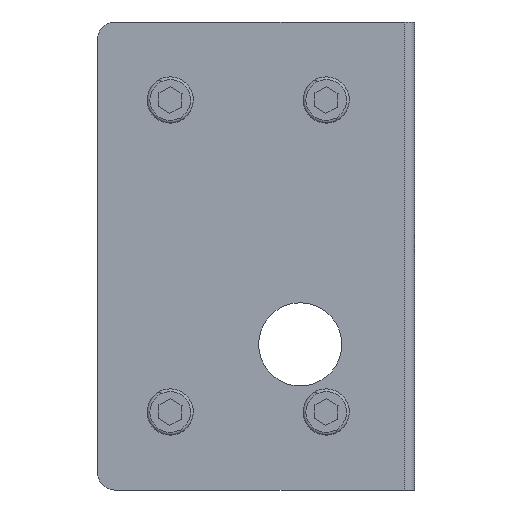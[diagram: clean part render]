
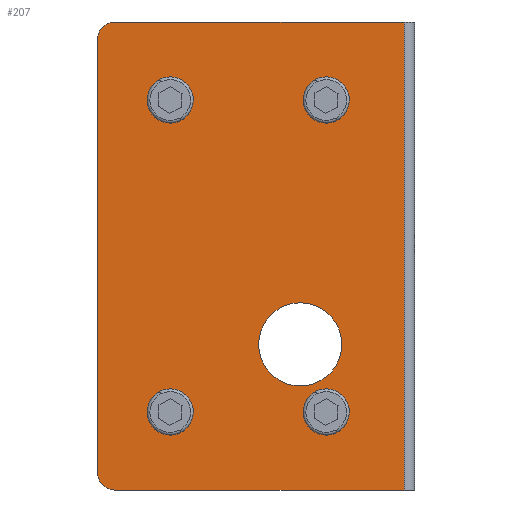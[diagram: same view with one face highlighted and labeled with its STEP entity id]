
A CAD part, left-side view. The second image highlights one B-rep face of the part: STEP entity #207.
In plain terms, the highlighted planar face has unit normal (-1, 0, 0).
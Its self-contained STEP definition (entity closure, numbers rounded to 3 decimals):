
#18 = VERTEX_POINT ( 'NONE', #1197 ) ;
#63 = DIRECTION ( 'NONE',  ( 0., 0., -1. ) ) ;
#76 = CARTESIAN_POINT ( 'NONE',  ( -46.5, -13.5, -25.5 ) ) ;
#91 = ORIENTED_EDGE ( 'NONE', *, *, #1425, .F. ) ;
#117 = DIRECTION ( 'NONE',  ( 0., -1., 0. ) ) ;
#186 = ORIENTED_EDGE ( 'NONE', *, *, #2290, .F. ) ;
#205 = AXIS2_PLACEMENT_3D ( 'NONE', #335, #304, #547 ) ;
#207 = ADVANCED_FACE ( 'NONE', ( #2452, #1125, #2305, #2536, #1193, #1199 ), #802, .F. ) ;
#217 = ORIENTED_EDGE ( 'NONE', *, *, #2109, .T. ) ;
#225 = EDGE_CURVE ( 'NONE', #18, #2015, #968, .T. ) ;
#233 = DIRECTION ( 'NONE',  ( 0., -1., 0. ) ) ;
#272 = AXIS2_PLACEMENT_3D ( 'NONE', #2910, #2214, #2705 ) ;
#275 = DIRECTION ( 'NONE',  ( -1., 0., 0. ) ) ;
#277 = CARTESIAN_POINT ( 'NONE',  ( -46.5, 45., 62.5 ) ) ;
#281 = VERTEX_POINT ( 'NONE', #2670 ) ;
#287 = CIRCLE ( 'NONE', #551, 4.25 ) ;
#304 = DIRECTION ( 'NONE',  ( -1., 0., 0. ) ) ;
#321 = VECTOR ( 'NONE', #63, 1000. ) ;
#325 = DIRECTION ( 'NONE',  ( -1., 0., 0. ) ) ;
#330 = CARTESIAN_POINT ( 'NONE',  ( -46.5, 40., -67.5 ) ) ;
#335 = CARTESIAN_POINT ( 'NONE',  ( -46.5, 24., 45. ) ) ;
#337 = DIRECTION ( 'NONE',  ( 1., 0., 0. ) ) ;
#339 = AXIS2_PLACEMENT_3D ( 'NONE', #2692, #2679, #2667 ) ;
#357 = DIRECTION ( 'NONE',  ( -1., 0., 0. ) ) ;
#365 = CIRCLE ( 'NONE', #2917, 5. ) ;
#384 = AXIS2_PLACEMENT_3D ( 'NONE', #76, #483, #1717 ) ;
#397 = CARTESIAN_POINT ( 'NONE',  ( -46.5, -13.5, -25.5 ) ) ;
#417 = CARTESIAN_POINT ( 'NONE',  ( -46.5, 45., 67.5 ) ) ;
#483 = DIRECTION ( 'NONE',  ( -1., 0., 0. ) ) ;
#488 = VERTEX_POINT ( 'NONE', #2334 ) ;
#496 = AXIS2_PLACEMENT_3D ( 'NONE', #1060, #831, #1069 ) ;
#537 = CARTESIAN_POINT ( 'NONE',  ( -46.5, 45., -67.5 ) ) ;
#541 = DIRECTION ( 'NONE',  ( 0., 0., 1. ) ) ;
#547 = DIRECTION ( 'NONE',  ( 0., 0., 1. ) ) ;
#551 = AXIS2_PLACEMENT_3D ( 'NONE', #2954, #2717, #1288 ) ;
#567 = DIRECTION ( 'NONE',  ( -1., 0., 0. ) ) ;
#612 = VECTOR ( 'NONE', #2557, 1000. ) ;
#688 = EDGE_CURVE ( 'NONE', #2905, #18, #1879, .T. ) ;
#712 = ORIENTED_EDGE ( 'NONE', *, *, #1736, .T. ) ;
#769 = ORIENTED_EDGE ( 'NONE', *, *, #1952, .F. ) ;
#782 = VERTEX_POINT ( 'NONE', #3023 ) ;
#802 = PLANE ( 'NONE',  #2834 ) ;
#806 = CARTESIAN_POINT ( 'NONE',  ( -46.5, 45., 67.5 ) ) ;
#831 = DIRECTION ( 'NONE',  ( -1., 0., 0. ) ) ;
#836 = AXIS2_PLACEMENT_3D ( 'NONE', #2444, #325, #541 ) ;
#846 = CARTESIAN_POINT ( 'NONE',  ( -46.5, -21., 45. ) ) ;
#860 = CARTESIAN_POINT ( 'NONE',  ( -46.5, 24., 40.75 ) ) ;
#884 = ORIENTED_EDGE ( 'NONE', *, *, #1155, .F. ) ;
#911 = CIRCLE ( 'NONE', #205, 4.25 ) ;
#913 = EDGE_LOOP ( 'NONE', ( #1750, #1394, #217, #1235, #1395, #712 ) ) ;
#961 = EDGE_CURVE ( 'NONE', #1393, #1710, #1085, .T. ) ;
#968 = CIRCLE ( 'NONE', #272, 5. ) ;
#985 = CIRCLE ( 'NONE', #339, 4.25 ) ;
#992 = VECTOR ( 'NONE', #233, 1000. ) ;
#1038 = EDGE_LOOP ( 'NONE', ( #884, #1166 ) ) ;
#1060 = CARTESIAN_POINT ( 'NONE',  ( -46.5, 24., 45. ) ) ;
#1069 = DIRECTION ( 'NONE',  ( 0., 0., 1. ) ) ;
#1078 = ORIENTED_EDGE ( 'NONE', *, *, #1272, .F. ) ;
#1085 = LINE ( 'NONE', #1227, #321 ) ;
#1112 = EDGE_CURVE ( 'NONE', #2278, #1530, #985, .T. ) ;
#1114 = AXIS2_PLACEMENT_3D ( 'NONE', #397, #567, #2443 ) ;
#1125 = FACE_OUTER_BOUND ( 'NONE', #913, .T. ) ;
#1129 = CIRCLE ( 'NONE', #2030, 4.25 ) ;
#1155 = EDGE_CURVE ( 'NONE', #2488, #1833, #911, .T. ) ;
#1162 = ORIENTED_EDGE ( 'NONE', *, *, #2168, .F. ) ;
#1166 = ORIENTED_EDGE ( 'NONE', *, *, #1481, .F. ) ;
#1186 = CARTESIAN_POINT ( 'NONE',  ( -46.5, -13.5, -37.5 ) ) ;
#1193 = FACE_BOUND ( 'NONE', #1669, .T. ) ;
#1197 = CARTESIAN_POINT ( 'NONE',  ( -46.5, 45., -62.5 ) ) ;
#1199 = FACE_BOUND ( 'NONE', #1038, .T. ) ;
#1227 = CARTESIAN_POINT ( 'NONE',  ( -46.5, -43.5, 67.5 ) ) ;
#1235 = ORIENTED_EDGE ( 'NONE', *, *, #961, .F. ) ;
#1238 = EDGE_LOOP ( 'NONE', ( #2406, #1162 ) ) ;
#1272 = EDGE_CURVE ( 'NONE', #1530, #2278, #1129, .T. ) ;
#1288 = DIRECTION ( 'NONE',  ( 0., 0., 1. ) ) ;
#1324 = DIRECTION ( 'NONE',  ( 0., 0., 1. ) ) ;
#1376 = CIRCLE ( 'NONE', #384, 12. ) ;
#1379 = CIRCLE ( 'NONE', #496, 4.25 ) ;
#1393 = VERTEX_POINT ( 'NONE', #1522 ) ;
#1394 = ORIENTED_EDGE ( 'NONE', *, *, #225, .T. ) ;
#1395 = ORIENTED_EDGE ( 'NONE', *, *, #2333, .F. ) ;
#1412 = EDGE_LOOP ( 'NONE', ( #769, #1795 ) ) ;
#1425 = EDGE_CURVE ( 'NONE', #281, #2213, #287, .T. ) ;
#1434 = CARTESIAN_POINT ( 'NONE',  ( -46.5, 40., 62.5 ) ) ;
#1468 = CIRCLE ( 'NONE', #1646, 4.25 ) ;
#1472 = CIRCLE ( 'NONE', #1675, 4.25 ) ;
#1481 = EDGE_CURVE ( 'NONE', #1833, #2488, #1379, .T. ) ;
#1519 = CARTESIAN_POINT ( 'NONE',  ( -46.5, -21., 49.25 ) ) ;
#1522 = CARTESIAN_POINT ( 'NONE',  ( -46.5, -43.5, 67.5 ) ) ;
#1530 = VERTEX_POINT ( 'NONE', #1519 ) ;
#1646 = AXIS2_PLACEMENT_3D ( 'NONE', #2980, #2055, #1324 ) ;
#1669 = EDGE_LOOP ( 'NONE', ( #1078, #2350 ) ) ;
#1675 = AXIS2_PLACEMENT_3D ( 'NONE', #2188, #275, #1718 ) ;
#1694 = CARTESIAN_POINT ( 'NONE',  ( -46.5, 24., -49.25 ) ) ;
#1710 = VERTEX_POINT ( 'NONE', #2388 ) ;
#1717 = DIRECTION ( 'NONE',  ( 0., 0., 1. ) ) ;
#1718 = DIRECTION ( 'NONE',  ( 0., 0., 1. ) ) ;
#1721 = VERTEX_POINT ( 'NONE', #1186 ) ;
#1736 = EDGE_CURVE ( 'NONE', #488, #2905, #365, .T. ) ;
#1750 = ORIENTED_EDGE ( 'NONE', *, *, #688, .T. ) ;
#1795 = ORIENTED_EDGE ( 'NONE', *, *, #3005, .F. ) ;
#1833 = VERTEX_POINT ( 'NONE', #860 ) ;
#1879 = LINE ( 'NONE', #417, #612 ) ;
#1880 = CARTESIAN_POINT ( 'NONE',  ( -46.5, 24., 49.25 ) ) ;
#1918 = LINE ( 'NONE', #537, #2173 ) ;
#1952 = EDGE_CURVE ( 'NONE', #2378, #2892, #1472, .T. ) ;
#1977 = EDGE_LOOP ( 'NONE', ( #186, #91 ) ) ;
#2015 = VERTEX_POINT ( 'NONE', #330 ) ;
#2030 = AXIS2_PLACEMENT_3D ( 'NONE', #846, #357, #2507 ) ;
#2055 = DIRECTION ( 'NONE',  ( -1., 0., 0. ) ) ;
#2068 = CIRCLE ( 'NONE', #836, 4.25 ) ;
#2077 = EDGE_CURVE ( 'NONE', #782, #1721, #1376, .T. ) ;
#2109 = EDGE_CURVE ( 'NONE', #2015, #1710, #1918, .T. ) ;
#2168 = EDGE_CURVE ( 'NONE', #1721, #782, #2360, .T. ) ;
#2173 = VECTOR ( 'NONE', #117, 1000. ) ;
#2188 = CARTESIAN_POINT ( 'NONE',  ( -46.5, 24., -45. ) ) ;
#2209 = LINE ( 'NONE', #2560, #992 ) ;
#2213 = VERTEX_POINT ( 'NONE', #2756 ) ;
#2214 = DIRECTION ( 'NONE',  ( -1., 0., 0. ) ) ;
#2270 = CARTESIAN_POINT ( 'NONE',  ( -46.5, -21., 40.75 ) ) ;
#2278 = VERTEX_POINT ( 'NONE', #2270 ) ;
#2290 = EDGE_CURVE ( 'NONE', #2213, #281, #1468, .T. ) ;
#2305 = FACE_BOUND ( 'NONE', #1238, .T. ) ;
#2333 = EDGE_CURVE ( 'NONE', #488, #1393, #2209, .T. ) ;
#2334 = CARTESIAN_POINT ( 'NONE',  ( -46.5, 40., 67.5 ) ) ;
#2350 = ORIENTED_EDGE ( 'NONE', *, *, #1112, .F. ) ;
#2360 = CIRCLE ( 'NONE', #1114, 12. ) ;
#2362 = CARTESIAN_POINT ( 'NONE',  ( -46.5, 24., -40.75 ) ) ;
#2378 = VERTEX_POINT ( 'NONE', #2362 ) ;
#2388 = CARTESIAN_POINT ( 'NONE',  ( -46.5, -43.5, -67.5 ) ) ;
#2406 = ORIENTED_EDGE ( 'NONE', *, *, #2077, .F. ) ;
#2443 = DIRECTION ( 'NONE',  ( 0., 0., 1. ) ) ;
#2444 = CARTESIAN_POINT ( 'NONE',  ( -46.5, 24., -45. ) ) ;
#2452 = FACE_BOUND ( 'NONE', #1412, .T. ) ;
#2488 = VERTEX_POINT ( 'NONE', #1880 ) ;
#2507 = DIRECTION ( 'NONE',  ( 0., 0., 1. ) ) ;
#2536 = FACE_BOUND ( 'NONE', #1977, .T. ) ;
#2557 = DIRECTION ( 'NONE',  ( 0., 0., -1. ) ) ;
#2560 = CARTESIAN_POINT ( 'NONE',  ( -46.5, 45., 67.5 ) ) ;
#2577 = DIRECTION ( 'NONE',  ( -1., 0., 0. ) ) ;
#2592 = DIRECTION ( 'NONE',  ( 0., 1., 0. ) ) ;
#2667 = DIRECTION ( 'NONE',  ( 0., 0., 1. ) ) ;
#2670 = CARTESIAN_POINT ( 'NONE',  ( -46.5, -21., -49.25 ) ) ;
#2679 = DIRECTION ( 'NONE',  ( -1., 0., 0. ) ) ;
#2692 = CARTESIAN_POINT ( 'NONE',  ( -46.5, -21., 45. ) ) ;
#2705 = DIRECTION ( 'NONE',  ( 0., 1., 0. ) ) ;
#2717 = DIRECTION ( 'NONE',  ( -1., 0., 0. ) ) ;
#2756 = CARTESIAN_POINT ( 'NONE',  ( -46.5, -21., -40.75 ) ) ;
#2834 = AXIS2_PLACEMENT_3D ( 'NONE', #806, #337, #2930 ) ;
#2892 = VERTEX_POINT ( 'NONE', #1694 ) ;
#2905 = VERTEX_POINT ( 'NONE', #277 ) ;
#2910 = CARTESIAN_POINT ( 'NONE',  ( -46.5, 40., -62.5 ) ) ;
#2917 = AXIS2_PLACEMENT_3D ( 'NONE', #1434, #2577, #2592 ) ;
#2930 = DIRECTION ( 'NONE',  ( 0., 1., 0. ) ) ;
#2954 = CARTESIAN_POINT ( 'NONE',  ( -46.5, -21., -45. ) ) ;
#2980 = CARTESIAN_POINT ( 'NONE',  ( -46.5, -21., -45. ) ) ;
#3005 = EDGE_CURVE ( 'NONE', #2892, #2378, #2068, .T. ) ;
#3023 = CARTESIAN_POINT ( 'NONE',  ( -46.5, -13.5, -13.5 ) ) ;
